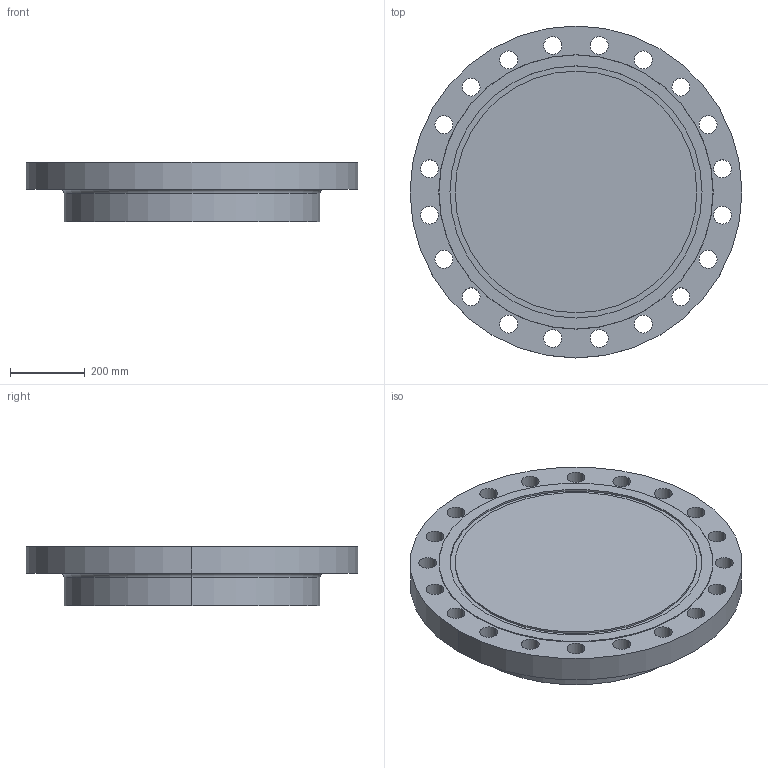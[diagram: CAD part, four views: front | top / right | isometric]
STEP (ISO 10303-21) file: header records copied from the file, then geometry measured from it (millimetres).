
FILE_DESCRIPTION (( 'STEP AP214' ), '1' );
FILE_NAME ('PN40 DN600 Type 21(i) - Type D Face.STEP', '2018-12-29T04:40:36', ( '' ), ( '' ), 'SwSTEP 2.0', 'SolidWorks 2019', '' );
FILE_SCHEMA (( 'AUTOMOTIVE_DESIGN' ));
Length unit declared in the file: millimetre
Products named in the file (1): PN40 DN600 Type 21(i) - Type D Face
Bounding box: 890 x 890 x 160 mm (x, y, z)
Volume: 74310788.6 mm3; surface area: 1781971.8 mm2
Topology: 1 solids, 1 shells, 58 faces, 154 edges, 102 vertices
Faces by surface type: cylinder 48, plane 6, torus 2, cone 2
Entity records: 1980 total; most frequent: DIRECTION 376, CARTESIAN_POINT 315, ORIENTED_EDGE 308, AXIS2_PLACEMENT_3D 163, EDGE_CURVE 154, CIRCLE 104, VERTEX_POINT 102, EDGE_LOOP 102
